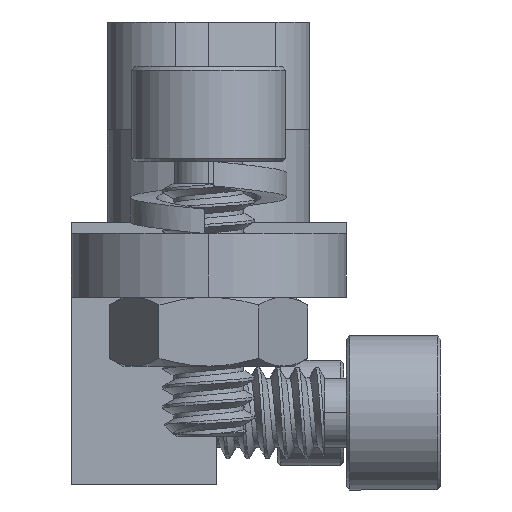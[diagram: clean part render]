
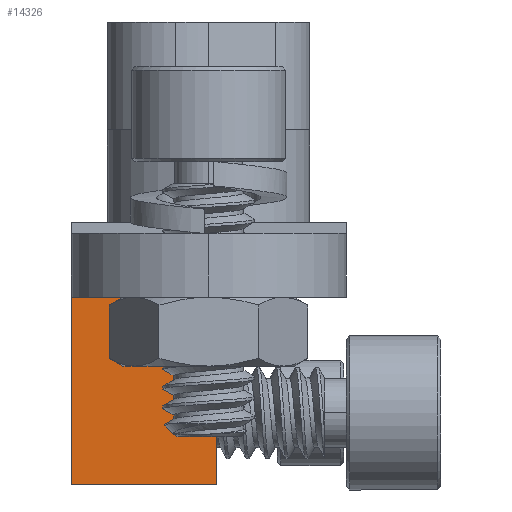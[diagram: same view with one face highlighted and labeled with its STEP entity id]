
A CAD part, left-side view. The second image highlights one B-rep face of the part: STEP entity #14326.
In plain terms, the highlighted planar face has unit normal (-1, 0, 0).
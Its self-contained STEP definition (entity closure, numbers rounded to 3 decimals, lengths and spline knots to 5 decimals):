
#776 = CARTESIAN_POINT ( 'NONE',  ( -0.6275, -0.007, -0.199 ) ) ;
#2596 = CARTESIAN_POINT ( 'NONE',  ( -0.6275, 0.125, -0.199 ) ) ;
#5067 = DIRECTION ( 'NONE',  ( 0., 0., 1. ) ) ;
#6050 = EDGE_CURVE ( 'NONE', #20932, #48755, #73470, .T. ) ;
#7702 = FACE_OUTER_BOUND ( 'NONE', #69381, .T. ) ;
#9422 = LINE ( 'NONE', #38861, #74413 ) ;
#10348 = DIRECTION ( 'NONE',  ( 0., 1., 0. ) ) ;
#11463 = LINE ( 'NONE', #74202, #26266 ) ;
#12162 = EDGE_CURVE ( 'NONE', #17747, #31370, #70793, .T. ) ;
#14326 = ADVANCED_FACE ( 'NONE', ( #7702 ), #23979, .F. ) ;
#17747 = VERTEX_POINT ( 'NONE', #776 ) ;
#19911 = CARTESIAN_POINT ( 'NONE',  ( -0.6275, -0.007, -0.029 ) ) ;
#20932 = VERTEX_POINT ( 'NONE', #2596 ) ;
#23979 = PLANE ( 'NONE',  #51846 ) ;
#25631 = ORIENTED_EDGE ( 'NONE', *, *, #73518, .T. ) ;
#25977 = CARTESIAN_POINT ( 'NONE',  ( -0.6275, 0.125, -0.029 ) ) ;
#26266 = VECTOR ( 'NONE', #10348, 39.37008 ) ;
#28566 = ORIENTED_EDGE ( 'NONE', *, *, #64596, .F. ) ;
#31370 = VERTEX_POINT ( 'NONE', #19911 ) ;
#32459 = DIRECTION ( 'NONE',  ( 0., 1., 0. ) ) ;
#34784 = VECTOR ( 'NONE', #40983, 39.37008 ) ;
#34954 = DIRECTION ( 'NONE',  ( 1., 0., 0. ) ) ;
#37198 = VECTOR ( 'NONE', #5067, 39.37008 ) ;
#37675 = ORIENTED_EDGE ( 'NONE', *, *, #6050, .F. ) ;
#38318 = CARTESIAN_POINT ( 'NONE',  ( -0.6275, 0.125, -0.199 ) ) ;
#38861 = CARTESIAN_POINT ( 'NONE',  ( -0.6275, 0.125, -0.199 ) ) ;
#40983 = DIRECTION ( 'NONE',  ( 0., 0., 1. ) ) ;
#46669 = CARTESIAN_POINT ( 'NONE',  ( -0.6275, 0.125, -0.199 ) ) ;
#47409 = DIRECTION ( 'NONE',  ( 0., 0., -1. ) ) ;
#48755 = VERTEX_POINT ( 'NONE', #25977 ) ;
#51846 = AXIS2_PLACEMENT_3D ( 'NONE', #46669, #34954, #47409 ) ;
#64596 = EDGE_CURVE ( 'NONE', #17747, #20932, #9422, .T. ) ;
#65129 = CARTESIAN_POINT ( 'NONE',  ( -0.6275, -0.007, -0.199 ) ) ;
#69381 = EDGE_LOOP ( 'NONE', ( #25631, #37675, #28566, #69497 ) ) ;
#69497 = ORIENTED_EDGE ( 'NONE', *, *, #12162, .T. ) ;
#70793 = LINE ( 'NONE', #65129, #34784 ) ;
#73470 = LINE ( 'NONE', #38318, #37198 ) ;
#73518 = EDGE_CURVE ( 'NONE', #31370, #48755, #11463, .T. ) ;
#74202 = CARTESIAN_POINT ( 'NONE',  ( -0.6275, 0.125, -0.029 ) ) ;
#74413 = VECTOR ( 'NONE', #32459, 39.37008 ) ;
